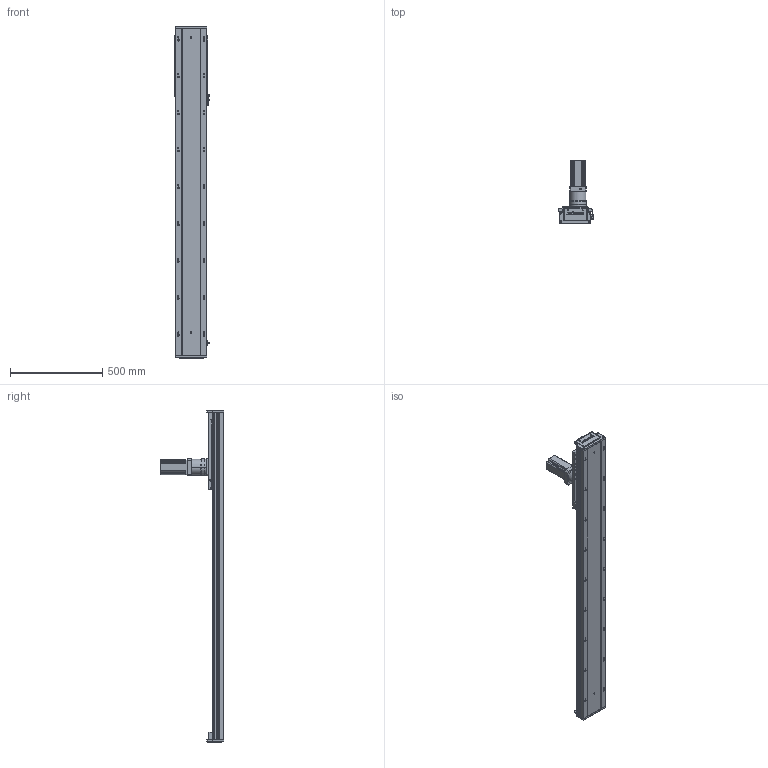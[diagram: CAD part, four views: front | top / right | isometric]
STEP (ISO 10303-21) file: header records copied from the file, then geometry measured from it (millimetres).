
FILE_DESCRIPTION (( 'STEP AP203' ), '1' );
FILE_NAME ('RY170-C-1000-UK.SLDASM_1300.step', '2021-03-03T00:46:31', ( '盈信电脑' ), ( '东莞市道滘镇水果街19号' ), 'SwSTEP 2.0', 'SolidWorks 2012', '' );
FILE_SCHEMA (( 'CONFIG_CONTROL_DESIGN' ));
Length unit declared in the file: millimetre
Products named in the file (13): RY170-C-1000-UK.SLDASM_1300; 左旋斜齿齿轮_M2_22齿_内孔20; RY170-喘沭賑輸; RY170-喘謫萇儂覃誹啣; TF080等撰; RY170-喘沭滅袉蝶輸; 怢湛750W萇儂ㄗ80遺ㄘ; RY170綴裔啣ㄗ蜊秶ㄘ; RY170外置感应片(200共用）; RY170-1000-喘沭耀郪絳寢EGH20CA_1300; 覜茼ん672; 絳寢賑輸EGH20CA; RY170-1000齿条模组型材底座_1300
Assembly tree (22 placements, depth 2):
  RY170-C-1000-UK.SLDASM_1300
    RY170-1000齿条模组型材底座_1300
    絳寢賑輸EGH20CA  x6
    RY170-1000-喘沭耀郪絳寢EGH20CA_1300  x2
    RY170綴裔啣ㄗ蜊秶ㄘ  x2
    覜茼ん672  x3
    RY170外置感应片(200共用）
    RY170-喘謫萇儂覃誹啣
    怢湛750W萇儂ㄗ80遺ㄘ
    RY170-喘沭滅袉蝶輸  x2
    TF080等撰
    左旋斜齿齿轮_M2_22齿_内孔20
    RY170-喘沭賑輸
Bounding box: 188.7 x 343.5 x 1800 mm (x, y, z)
Volume: 10742502.5 mm3; surface area: 2587482.2 mm2
Topology: 24 solids, 24 shells, 3987 faces, 11010 edges, 7087 vertices
Faces by surface type: plane 1997, cylinder 1666, cone 270, bspline 50, torus 4
Entity records: 86364 total; most frequent: CARTESIAN_POINT 19377, ORIENTED_EDGE 13838, DIRECTION 13568, EDGE_CURVE 6919, AXIS2_PLACEMENT_3D 4949, VERTEX_POINT 4505, VECTOR 3670, LINE 3670
